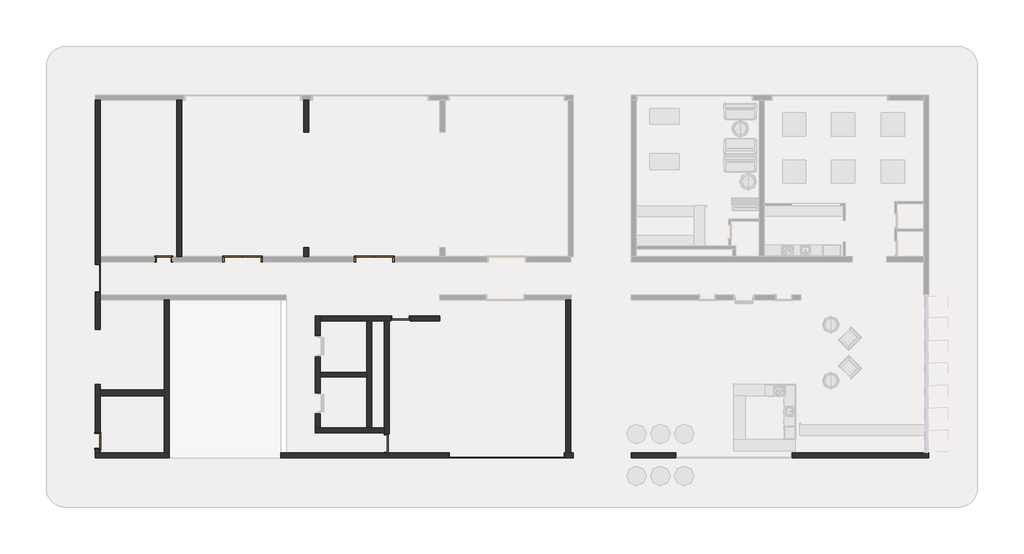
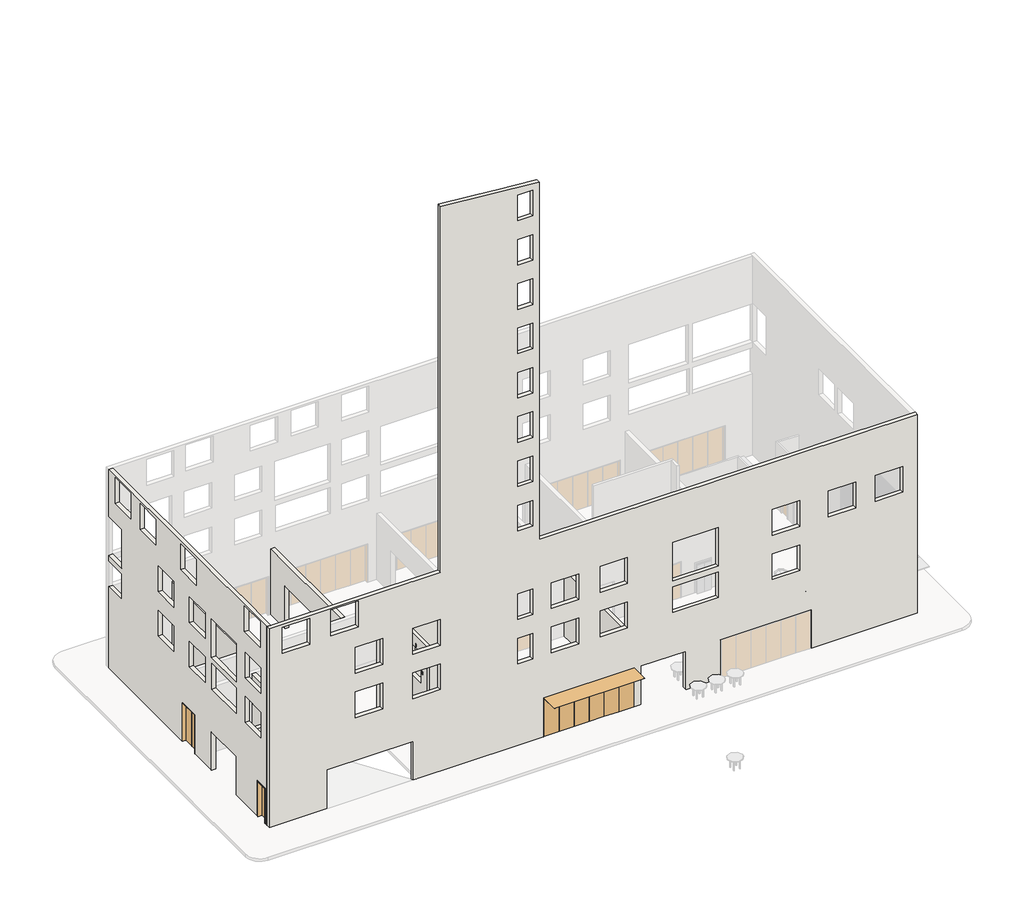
# One storey, part 1 of 8: 13 walls, 8 doors.
"""IFC4 building model written with IfcOpenShell, lengths in millimetres."""

from ifc_helpers import new_model, si_unit, frame, origin, place, context, project, spatial, polyline, outline, extrude, faceted_brep, transform, mapped, element, save
from components import bi_fold_dor_6_panel_6000_f2409742, swing_double_metal_frame_double_2040_x_970x2_2b0cb67a, swing_double_timber_frame_door_2040x720x2_a5019e4b, swing_metal_frame_single_dor_f6efc24d, swing_metal_frame_single_dor1_247f4e75

model = new_model("IFC4")

# Units and contexts
model_context = context("Model", 3, world=origin())
ifc_project = project(units=[si_unit("LENGTHUNIT", "METRE", prefix="MILLI")], contexts=[model_context])

# Site, building, storey
site = spatial("IfcSite", under=ifc_project)
building = spatial("IfcBuilding", under=site)
storey = spatial("IfcBuildingStorey", under=building, Name="0階", Elevation=25100.0)

# Doors
placement = place(None, origin())
bi_fold_dor_6_panel_6000_shape = bi_fold_dor_6_panel_6000_f2409742(model_context)
element("IfcDoor", 1, ObjectType="Bi Fold_DOR : 6 Panel - 6000", at=placement, inside=storey, context=model_context, shape_type="MappedRepresentation", body=[
    mapped(bi_fold_dor_6_panel_6000_shape, transform((23523.2434971, 174.0898177, 25100.0), x_axis=(-1.0, 0.0, 0.0), y_axis=(0.0, -1.0, 0.0), z_axis=(0.0, 0.0, 1.0))),
])
swing_double_metal_frame_double_2040_x_970x2_shape = swing_double_metal_frame_double_2040_x_970x2_2b0cb67a(model_context)
element("IfcDoor", 2, ObjectType="Swing_Double : Metal Frame Double - 2040 x 970x2", at=placement, inside=storey, context=model_context, shape_type="MappedRepresentation", body=[
    mapped(swing_double_metal_frame_double_2040_x_970x2_shape, transform((10164.9275387, 10265.005792, 25100.0), x_axis=(1.0, 0.0, 0.0), y_axis=(0.0, 1.0, 0.0), z_axis=(0.0, 0.0, 1.0))),
])
element("IfcDoor", 3, ObjectType="Swing_Double : Metal Frame Double - 2040 x 970x2", at=placement, inside=storey, context=model_context, shape_type="MappedRepresentation", body=[
    mapped(swing_double_metal_frame_double_2040_x_970x2_shape, transform((16934.8983724, 10265.005792, 25100.0), x_axis=(1.0, 0.0, 0.0), y_axis=(0.0, 1.0, 0.0), z_axis=(0.0, 0.0, 1.0))),
])
swing_double_timber_frame_door_2040x720x2_shape = swing_double_timber_frame_door_2040x720x2_a5019e4b(model_context)
element("IfcDoor", 4, ObjectType="Swing_Double : Timber Frame Door 2040x720x2", at=placement, inside=storey, context=model_context, shape_type="MappedRepresentation", body=[
    mapped(swing_double_timber_frame_door_2040x720x2_shape, transform((2504.6057353, 9068.505792, 25100.0), x_axis=(0.0, -1.0, 0.0), y_axis=(1.0, 0.0, 0.0), z_axis=(0.0, 0.0, 1.0))),
])
swing_metal_frame_single_dor_shape = swing_metal_frame_single_dor_f6efc24d(model_context)
element("IfcDoor", 5, ObjectType="Swing_Metal Frame_Single_DOR : 2140h x 920 (2210x1010 BLK)", at=placement, inside=storey, context=model_context, shape_type="MappedRepresentation", body=[
    mapped(swing_metal_frame_single_dor_shape, transform((17369.6062665, 770.0, 25100.0), x_axis=(0.0, 1.0, 0.0), y_axis=(-1.0, 0.0, 0.0), z_axis=(0.0, 0.0, 1.0))),
])
element("IfcDoor", 6, ObjectType="Swing_Metal Frame_Single_DOR : 2140h x 920 (2210x1010 BLK)", at=placement, inside=storey, context=model_context, shape_type="MappedRepresentation", body=[
    mapped(swing_metal_frame_single_dor_shape, transform((18069.6062665, 7210.0, 25100.0), x_axis=(1.0, 0.0, 0.0), y_axis=(0.0, 1.0, 0.0), z_axis=(0.0, 0.0, 1.0))),
])
swing_metal_frame_single_dor1_shape = swing_metal_frame_single_dor1_247f4e75(model_context)
element("IfcDoor", 7, ObjectType="Swing_Metal Frame_Single_DOR1 : 2040h x 820 (2110x920 STUD)", at=placement, inside=storey, context=model_context, shape_type="MappedRepresentation", body=[
    mapped(swing_metal_frame_single_dor1_shape, transform((2504.6057353, 910.0, 25100.0), x_axis=(0.0, 1.0, 0.0), y_axis=(-1.0, 0.0, 0.0), z_axis=(0.0, 0.0, 1.0))),
])
element("IfcDoor", 8, ObjectType="Swing_Metal Frame_Single_DOR1 : 2040h x 820 (2110x920 STUD)", at=placement, inside=storey, context=model_context, shape_type="MappedRepresentation", body=[
    mapped(swing_metal_frame_single_dor1_shape, transform((5889.6645991, 10265.005792, 25100.0), x_axis=(-1.0, 0.0, 0.0), y_axis=(0.0, -1.0, 0.0), z_axis=(0.0, 0.0, 1.0))),
])

# Walls
element("IfcWall", 9, ObjectType="Brickwork_Double_270mm", at=placement, inside=storey, context=model_context, shape_type="Brep", body=[
    faceted_brep([(2369.6057353, 309.0898177, 39000.0), (2639.6057353, 309.0898177, 39000.0), (13694.6062665, 309.0898177, 39000.0), (13694.6062665, 309.0898177, 60900.0), (13694.6062665, 309.0898177, 64570.8635295), (13844.6062665, 309.0898177, 64557.74023), (17344.6062665, 309.0898177, 64251.5299076), (17494.6062665, 309.0898177, 64238.4066081), (20219.6062665, 309.0898177, 64000.0), (20219.6062665, 309.0898177, 39000.0), (20364.6062665, 309.0898177, 39000.0), (38377.4654784, 309.0898177, 39000.0), (38647.4654784, 309.0898177, 39000.0), (41712.4654784, 309.0898177, 39000.0), (41982.4654784, 309.0898177, 39000.0), (44965.0, 309.0898177, 39000.0), (45235.0, 309.0898177, 39000.0), (45235.0, 309.0898177, 32600.0), (45235.0, 309.0898177, 25100.0), (38212.4654784, 309.0898177, 25100.0), (38212.4654784, 309.0898177, 27800.0), (32212.4654784, 309.0898177, 27800.0), (32212.4654784, 309.0898177, 25100.0), (29922.1585166, 309.0898177, 25100.0), (29922.1585166, 309.0898177, 27800.0), (26951.8807277, 309.0898177, 27800.0), (26951.8807277, 309.0898177, 25100.0), (26826.8807277, 309.0898177, 25100.0), (26556.8807277, 309.0898177, 25100.0), (26523.2434971, 309.0898177, 25100.0), (26523.2434971, 309.0898177, 27800.0), (20523.2434971, 309.0898177, 27800.0), (20523.2434971, 309.0898177, 25100.0), (17494.6062665, 309.0898177, 25100.0), (17494.6062665, 309.0898177, 27310.0), (17244.6062665, 309.0898177, 27310.0), (17244.6062665, 309.0898177, 25100.0), (12182.1904782, 309.0898177, 25100.0), (12182.1904782, 309.0898177, 24900.0), (11912.1904782, 309.0898177, 24900.0), (11912.1904782, 309.0898177, 27800.0), (6182.1904782, 309.0898177, 27800.0), (6182.1904782, 309.0898177, 25100.0), (5912.1904782, 309.0898177, 25100.0), (2639.6057353, 309.0898177, 25100.0), (2369.6057353, 309.0898177, 25100.0), (29056.5410012, 309.0898177, 35700.0), (29056.5410012, 309.0898177, 33000.0), (32056.5410012, 309.0898177, 33000.0), (32056.5410012, 309.0898177, 35700.0), (22829.6062665, 309.0898177, 33900.0), (22829.6062665, 309.0898177, 35700.0), (21029.6062665, 309.0898177, 35700.0), (21029.6062665, 309.0898177, 33900.0), (24247.200582, 309.0898177, 35700.0), (24247.200582, 309.0898177, 33900.0), (26047.200582, 309.0898177, 33900.0), (26047.200582, 309.0898177, 35700.0), (35647.200582, 309.0898177, 35700.0), (35647.200582, 309.0898177, 33900.0), (37447.200582, 309.0898177, 33900.0), (37447.200582, 309.0898177, 35700.0), (39355.4654784, 309.0898177, 35700.0), (39355.4654784, 309.0898177, 33900.0), (41155.4654784, 309.0898177, 33900.0), (41155.4654784, 309.0898177, 35700.0), (42455.4654784, 309.0898177, 35700.0), (42455.4654784, 309.0898177, 33900.0), (44255.4654784, 309.0898177, 33900.0), (44255.4654784, 309.0898177, 35700.0), (11869.6062665, 309.0898177, 35700.0), (11869.6062665, 309.0898177, 33900.0), (13669.6062665, 309.0898177, 33900.0), (13669.6062665, 309.0898177, 35700.0), (19794.6062665, 309.0898177, 33900.0), (19794.6062665, 309.0898177, 35700.0), (18794.6062665, 309.0898177, 35700.0), (18794.6062665, 309.0898177, 33900.0), (19794.6062665, 309.0898177, 40100.0), (19794.6062665, 309.0898177, 41900.0), (18794.6062665, 309.0898177, 41900.0), (18794.6062665, 309.0898177, 40100.0), (19794.6062665, 309.0898177, 43200.0), (19794.6062665, 309.0898177, 45000.0), (18794.6062665, 309.0898177, 45000.0), (18794.6062665, 309.0898177, 43200.0), (19794.6062665, 309.0898177, 46300.0), (19794.6062665, 309.0898177, 48100.0), (18794.6062665, 309.0898177, 48100.0), (18794.6062665, 309.0898177, 46300.0), (19794.6062665, 309.0898177, 49400.0), (19794.6062665, 309.0898177, 51200.0), (18794.6062665, 309.0898177, 51200.0), (18794.6062665, 309.0898177, 49400.0), (19794.6062665, 309.0898177, 52500.0), (19794.6062665, 309.0898177, 54300.0), (18794.6062665, 309.0898177, 54300.0), (18794.6062665, 309.0898177, 52500.0), (19794.6062665, 309.0898177, 55600.0), (19794.6062665, 309.0898177, 57400.0), (18794.6062665, 309.0898177, 57400.0), (18794.6062665, 309.0898177, 55600.0), (9863.4954006, 309.0898177, 33900.0), (9863.4954006, 309.0898177, 35700.0), (8063.4954006, 309.0898177, 35700.0), (8063.4954006, 309.0898177, 33900.0), (5044.6057353, 309.0898177, 37000.0), (5044.6057353, 309.0898177, 38800.0), (3244.6057353, 309.0898177, 38800.0), (3244.6057353, 309.0898177, 37000.0), (19794.6062665, 309.0898177, 61800.0), (19794.6062665, 309.0898177, 63600.0), (18794.6062665, 309.0898177, 63600.0), (18794.6062665, 309.0898177, 61800.0), (17494.6062665, 309.0898177, 33000.0), (17494.6062665, 309.0898177, 35210.0), (17244.6062665, 309.0898177, 35210.0), (17244.6062665, 309.0898177, 33000.0), (17494.6062665, 309.0898177, 39200.0), (17494.6062665, 309.0898177, 41410.0), (17244.6062665, 309.0898177, 41410.0), (17244.6062665, 309.0898177, 39200.0), (17494.6062665, 309.0898177, 51600.0), (17494.6062665, 309.0898177, 53810.0), (17244.6062665, 309.0898177, 53810.0), (17244.6062665, 309.0898177, 51600.0), (17494.6062665, 309.0898177, 54700.0), (17494.6062665, 309.0898177, 56910.0), (17244.6062665, 309.0898177, 56910.0), (17244.6062665, 309.0898177, 54700.0), (17494.6062665, 309.0898177, 48500.0), (17494.6062665, 309.0898177, 50710.0), (17244.6062665, 309.0898177, 50710.0), (17244.6062665, 309.0898177, 48500.0), (17494.6062665, 309.0898177, 45400.0), (17494.6062665, 309.0898177, 47610.0), (17244.6062665, 309.0898177, 47610.0), (17244.6062665, 309.0898177, 45400.0), (17494.6062665, 309.0898177, 42300.0), (17494.6062665, 309.0898177, 44510.0), (17244.6062665, 309.0898177, 44510.0), (17244.6062665, 309.0898177, 42300.0), (17494.6062665, 309.0898177, 60900.0), (17494.6062665, 309.0898177, 63110.0), (17344.6062665, 309.0898177, 63110.0), (17344.6062665, 309.0898177, 60900.0), (9863.4954006, 309.0898177, 30800.0), (9863.4954006, 309.0898177, 32600.0), (8063.4954006, 309.0898177, 32600.0), (8063.4954006, 309.0898177, 30800.0), (13670.0, 309.0898177, 30800.0), (13670.0, 309.0898177, 32600.0), (11870.0, 309.0898177, 32600.0), (11870.0, 309.0898177, 30800.0), (22829.6062665, 309.0898177, 30800.0), (22829.6062665, 309.0898177, 32600.0), (21029.6062665, 309.0898177, 32600.0), (21029.6062665, 309.0898177, 30800.0), (26047.200582, 309.0898177, 30800.0), (26047.200582, 309.0898177, 32600.0), (24247.200582, 309.0898177, 32600.0), (24247.200582, 309.0898177, 30800.0), (37447.200582, 309.0898177, 30800.0), (37447.200582, 309.0898177, 32600.0), (35647.200582, 309.0898177, 32600.0), (35647.200582, 309.0898177, 30800.0), (19794.6062665, 309.0898177, 58700.0), (19794.6062665, 309.0898177, 60500.0), (18794.6062665, 309.0898177, 60500.0), (18794.6062665, 309.0898177, 58700.0), (19794.6062665, 309.0898177, 30800.0), (19794.6062665, 309.0898177, 32600.0), (18794.6062665, 309.0898177, 32600.0), (18794.6062665, 309.0898177, 30800.0), (32056.5410012, 309.0898177, 30800.0), (32056.5410012, 309.0898177, 32600.0), (29056.5410012, 309.0898177, 32600.0), (29056.5410012, 309.0898177, 30800.0), (8244.6057353, 309.0898177, 37100.0), (8244.6057353, 309.0898177, 38900.0), (6444.6057353, 309.0898177, 38900.0), (6444.6057353, 309.0898177, 37100.0), (13694.6062665, 39.0898177, 39000.0), (2369.6057353, 39.0898177, 39000.0), (2369.6057353, 39.0898177, 25100.0), (6182.1904782, 39.0898177, 25100.0), (6182.1904782, 39.0898177, 27800.0), (11912.1904782, 39.0898177, 27800.0), (11912.1904782, 39.0898177, 25100.0), (11912.1904782, 39.0898177, 24900.0), (12182.1904782, 39.0898177, 24900.0), (12182.1904782, 39.0898177, 25100.0), (20523.2434971, 39.0898177, 25100.0), (20523.2434971, 39.0898177, 27800.0), (26523.2434971, 39.0898177, 27800.0), (26523.2434971, 39.0898177, 25100.0), (26951.8807277, 39.0898177, 25100.0), (26951.8807277, 39.0898177, 27800.0), (29922.1585166, 39.0898177, 27800.0), (29922.1585166, 39.0898177, 25100.0), (32212.4654784, 39.0898177, 25100.0), (32212.4654784, 39.0898177, 27800.0), (38212.4654784, 39.0898177, 27800.0), (38212.4654784, 39.0898177, 25100.0), (45235.0, 39.0898177, 25100.0), (45235.0, 39.0898177, 39000.0), (20219.6062665, 39.0898177, 39000.0), (20219.6062665, 39.0898177, 64000.0), (13694.6062665, 39.0898177, 64570.8635295), (29056.5410012, 39.0898177, 33000.0), (29056.5410012, 39.0898177, 35700.0), (32056.5410012, 39.0898177, 35700.0), (32056.5410012, 39.0898177, 33000.0), (22829.6062665, 39.0898177, 35700.0), (22829.6062665, 39.0898177, 33900.0), (21029.6062665, 39.0898177, 33900.0), (21029.6062665, 39.0898177, 35700.0), (24247.200582, 39.0898177, 33900.0), (24247.200582, 39.0898177, 35700.0), (26047.200582, 39.0898177, 35700.0), (26047.200582, 39.0898177, 33900.0), (35647.200582, 39.0898177, 33900.0), (35647.200582, 39.0898177, 35700.0), (37447.200582, 39.0898177, 35700.0), (37447.200582, 39.0898177, 33900.0), (39355.4654784, 39.0898177, 33900.0), (39355.4654784, 39.0898177, 35700.0), (41155.4654784, 39.0898177, 35700.0), (41155.4654784, 39.0898177, 33900.0), (42455.4654784, 39.0898177, 33900.0), (42455.4654784, 39.0898177, 35700.0), (44255.4654784, 39.0898177, 35700.0), (44255.4654784, 39.0898177, 33900.0), (11869.6062665, 39.0898177, 33900.0), (11869.6062665, 39.0898177, 35700.0), (13669.6062665, 39.0898177, 35700.0), (13669.6062665, 39.0898177, 33900.0), (19794.6062665, 39.0898177, 35700.0), (19794.6062665, 39.0898177, 33900.0), (18794.6062665, 39.0898177, 33900.0), (18794.6062665, 39.0898177, 35700.0), (19794.6062665, 39.0898177, 41900.0), (19794.6062665, 39.0898177, 40100.0), (18794.6062665, 39.0898177, 40100.0), (18794.6062665, 39.0898177, 41900.0), (19794.6062665, 39.0898177, 45000.0), (19794.6062665, 39.0898177, 43200.0), (18794.6062665, 39.0898177, 43200.0), (18794.6062665, 39.0898177, 45000.0), (19794.6062665, 39.0898177, 48100.0), (19794.6062665, 39.0898177, 46300.0), (18794.6062665, 39.0898177, 46300.0), (18794.6062665, 39.0898177, 48100.0), (19794.6062665, 39.0898177, 51200.0), (19794.6062665, 39.0898177, 49400.0), (18794.6062665, 39.0898177, 49400.0), (18794.6062665, 39.0898177, 51200.0), (19794.6062665, 39.0898177, 54300.0), (19794.6062665, 39.0898177, 52500.0), (18794.6062665, 39.0898177, 52500.0), (18794.6062665, 39.0898177, 54300.0), (19794.6062665, 39.0898177, 57400.0), (19794.6062665, 39.0898177, 55600.0), (18794.6062665, 39.0898177, 55600.0), (18794.6062665, 39.0898177, 57400.0), (9863.4954006, 39.0898177, 35700.0), (9863.4954006, 39.0898177, 33900.0), (8063.4954006, 39.0898177, 33900.0), (8063.4954006, 39.0898177, 35700.0), (5044.6057353, 39.0898177, 38800.0), (5044.6057353, 39.0898177, 37000.0), (3244.6057353, 39.0898177, 37000.0), (3244.6057353, 39.0898177, 38800.0), (19794.6062665, 39.0898177, 63600.0), (19794.6062665, 39.0898177, 61800.0), (18794.6062665, 39.0898177, 61800.0), (18794.6062665, 39.0898177, 63600.0), (9863.4954006, 39.0898177, 32600.0), (9863.4954006, 39.0898177, 30800.0), (8063.4954006, 39.0898177, 30800.0), (8063.4954006, 39.0898177, 32600.0), (13670.0, 39.0898177, 32600.0), (13670.0, 39.0898177, 30800.0), (11870.0, 39.0898177, 30800.0), (11870.0, 39.0898177, 32600.0), (22829.6062665, 39.0898177, 32600.0), (22829.6062665, 39.0898177, 30800.0), (21029.6062665, 39.0898177, 30800.0), (21029.6062665, 39.0898177, 32600.0), (26047.200582, 39.0898177, 32600.0), (26047.200582, 39.0898177, 30800.0), (24247.200582, 39.0898177, 30800.0), (24247.200582, 39.0898177, 32600.0), (37447.200582, 39.0898177, 32600.0), (37447.200582, 39.0898177, 30800.0), (35647.200582, 39.0898177, 30800.0), (35647.200582, 39.0898177, 32600.0), (19794.6062665, 39.0898177, 60500.0), (19794.6062665, 39.0898177, 58700.0), (18794.6062665, 39.0898177, 58700.0), (18794.6062665, 39.0898177, 60500.0), (19794.6062665, 39.0898177, 32600.0), (19794.6062665, 39.0898177, 30800.0), (18794.6062665, 39.0898177, 30800.0), (18794.6062665, 39.0898177, 32600.0), (32056.5410012, 39.0898177, 32600.0), (32056.5410012, 39.0898177, 30800.0), (29056.5410012, 39.0898177, 30800.0), (29056.5410012, 39.0898177, 32600.0), (8244.6057353, 39.0898177, 38900.0), (8244.6057353, 39.0898177, 37100.0), (6444.6057353, 39.0898177, 37100.0), (6444.6057353, 39.0898177, 38900.0), (17494.6062665, 260.0, 33000.0), (17494.6062665, 260.0, 35210.0), (17244.6062665, 260.0, 35210.0), (17244.6062665, 260.0, 33000.0), (17494.6062665, 260.0, 39200.0), (17494.6062665, 260.0, 41410.0), (17244.6062665, 260.0, 41410.0), (17244.6062665, 260.0, 39200.0), (17494.6062665, 260.0, 54700.0), (17494.6062665, 260.0, 56910.0), (17244.6062665, 260.0, 56910.0), (17244.6062665, 260.0, 54700.0), (17494.6062665, 260.0, 42300.0), (17494.6062665, 260.0, 44510.0), (17244.6062665, 260.0, 44510.0), (17244.6062665, 260.0, 42300.0), (17494.6062665, 260.0, 45400.0), (17494.6062665, 260.0, 47610.0), (17244.6062665, 260.0, 47610.0), (17244.6062665, 260.0, 45400.0), (17494.6062665, 260.0, 48500.0), (17494.6062665, 260.0, 50710.0), (17244.6062665, 260.0, 50710.0), (17244.6062665, 260.0, 48500.0), (17494.6062665, 260.0, 51600.0), (17494.6062665, 260.0, 53810.0), (17244.6062665, 260.0, 53810.0), (17244.6062665, 260.0, 51600.0), (17494.6062665, 260.0, 25100.0), (17494.6062665, 260.0, 27310.0), (17244.6062665, 260.0, 27310.0), (17244.6062665, 260.0, 25100.0), (17494.6062665, 260.0, 60900.0), (17494.6062665, 260.0, 63110.0), (17344.6062665, 260.0, 63110.0), (17344.6062665, 260.0, 60900.0)], [[[0, 1, 2, 3, 4, 5, 6, 7, 8, 9, 10, 11, 12, 13, 14, 15, 16, 17, 18, 19, 20, 21, 22, 23, 24, 25, 26, 27, 28, 29, 30, 31, 32, 33, 34, 35, 36, 37, 38, 39, 40, 41, 42, 43, 44, 45], [46, 47, 48, 49], [50, 51, 52, 53], [54, 55, 56, 57], [58, 59, 60, 61], [62, 63, 64, 65], [66, 67, 68, 69], [70, 71, 72, 73], [74, 75, 76, 77], [78, 79, 80, 81], [82, 83, 84, 85], [86, 87, 88, 89], [90, 91, 92, 93], [94, 95, 96, 97], [98, 99, 100, 101], [102, 103, 104, 105], [106, 107, 108, 109], [110, 111, 112, 113], [114, 115, 116, 117], [118, 119, 120, 121], [122, 123, 124, 125], [126, 127, 128, 129], [130, 131, 132, 133], [134, 135, 136, 137], [138, 139, 140, 141], [142, 143, 144, 145], [146, 147, 148, 149], [150, 151, 152, 153], [154, 155, 156, 157], [158, 159, 160, 161], [162, 163, 164, 165], [166, 167, 168, 169], [170, 171, 172, 173], [174, 175, 176, 177], [178, 179, 180, 181]], [[182, 183, 184, 185, 186, 187, 188, 189, 190, 191, 192, 193, 194, 195, 196, 197, 198, 199, 200, 201, 202, 203, 204, 205, 206, 207, 208], [209, 210, 211, 212], [213, 214, 215, 216], [217, 218, 219, 220], [221, 222, 223, 224], [225, 226, 227, 228], [229, 230, 231, 232], [233, 234, 235, 236], [237, 238, 239, 240], [241, 242, 243, 244], [245, 246, 247, 248], [249, 250, 251, 252], [253, 254, 255, 256], [257, 258, 259, 260], [261, 262, 263, 264], [265, 266, 267, 268], [269, 270, 271, 272], [273, 274, 275, 276], [277, 278, 279, 280], [281, 282, 283, 284], [285, 286, 287, 288], [289, 290, 291, 292], [293, 294, 295, 296], [297, 298, 299, 300], [301, 302, 303, 304], [305, 306, 307, 308], [309, 310, 311, 312]], [[189, 39, 38, 190]], [[16, 205, 204, 18, 17]], [[183, 0, 45, 184]], [[210, 209, 47, 46]], [[211, 210, 46, 49]], [[212, 211, 49, 48]], [[209, 212, 48, 47]], [[51, 50, 214, 213]], [[52, 51, 213, 216]], [[53, 52, 216, 215]], [[50, 53, 215, 214]], [[218, 217, 55, 54]], [[219, 218, 54, 57]], [[220, 219, 57, 56]], [[217, 220, 56, 55]], [[222, 221, 59, 58]], [[223, 222, 58, 61]], [[224, 223, 61, 60]], [[221, 224, 60, 59]], [[226, 225, 63, 62]], [[227, 226, 62, 65]], [[228, 227, 65, 64]], [[225, 228, 64, 63]], [[230, 229, 67, 66]], [[231, 230, 66, 69]], [[232, 231, 69, 68]], [[229, 232, 68, 67]], [[234, 233, 71, 70]], [[235, 234, 70, 73]], [[236, 235, 73, 72]], [[233, 236, 72, 71]], [[313, 314, 115, 114]], [[315, 316, 117, 116]], [[314, 315, 116, 115]], [[314, 313, 316, 315]], [[316, 313, 114, 117]], [[317, 318, 119, 118]], [[319, 320, 121, 120]], [[318, 317, 320, 319]], [[320, 317, 118, 121]], [[0, 183, 182, 2, 1]], [[2, 182, 208, 4, 3]], [[205, 16, 15, 14, 13, 12, 11, 10, 9, 206]], [[206, 9, 8, 207]], [[8, 7, 6, 5, 4, 208, 207]], [[318, 319, 120, 119]], [[321, 322, 127, 126]], [[323, 324, 129, 128]], [[322, 323, 128, 127]], [[322, 321, 324, 323]], [[324, 321, 126, 129]], [[325, 326, 139, 138]], [[327, 328, 141, 140]], [[326, 327, 140, 139]], [[326, 325, 328, 327]], [[328, 325, 138, 141]], [[329, 330, 135, 134]], [[331, 332, 137, 136]], [[330, 331, 136, 135]], [[330, 329, 332, 331]], [[332, 329, 134, 137]], [[333, 334, 131, 130]], [[335, 336, 133, 132]], [[334, 335, 132, 131]], [[334, 333, 336, 335]], [[336, 333, 130, 133]], [[337, 338, 123, 122]], [[339, 340, 125, 124]], [[338, 339, 124, 123]], [[338, 337, 340, 339]], [[340, 337, 122, 125]], [[75, 74, 238, 237]], [[76, 75, 237, 240]], [[77, 76, 240, 239]], [[74, 77, 239, 238]], [[79, 78, 242, 241]], [[80, 79, 241, 244]], [[81, 80, 244, 243]], [[78, 81, 243, 242]], [[83, 82, 246, 245]], [[84, 83, 245, 248]], [[85, 84, 248, 247]], [[82, 85, 247, 246]], [[87, 86, 250, 249]], [[88, 87, 249, 252]], [[89, 88, 252, 251]], [[86, 89, 251, 250]], [[91, 90, 254, 253]], [[92, 91, 253, 256]], [[93, 92, 256, 255]], [[90, 93, 255, 254]], [[95, 94, 258, 257]], [[96, 95, 257, 260]], [[97, 96, 260, 259]], [[94, 97, 259, 258]], [[99, 98, 262, 261]], [[100, 99, 261, 264]], [[101, 100, 264, 263]], [[98, 101, 263, 262]], [[103, 102, 266, 265]], [[104, 103, 265, 268]], [[105, 104, 268, 267]], [[102, 105, 267, 266]], [[107, 106, 270, 269]], [[108, 107, 269, 272]], [[109, 108, 272, 271]], [[106, 109, 271, 270]], [[111, 110, 274, 273]], [[112, 111, 273, 276]], [[113, 112, 276, 275]], [[110, 113, 275, 274]], [[41, 186, 185, 42]], [[186, 41, 40, 187]], [[187, 40, 39, 189, 188]], [[25, 197, 196, 26]], [[197, 25, 24, 198]], [[198, 24, 23, 199]], [[341, 342, 34, 33]], [[343, 344, 36, 35]], [[342, 343, 35, 34]], [[342, 341, 344, 343]], [[21, 201, 200, 22]], [[201, 21, 20, 202]], [[202, 20, 19, 203]], [[32, 31, 193, 192]], [[31, 30, 194, 193]], [[30, 29, 195, 194]], [[19, 18, 204, 203]], [[23, 22, 200, 199]], [[45, 44, 43, 42, 185, 184]], [[191, 37, 36, 344, 341, 33, 32, 192]], [[29, 28, 27, 26, 196, 195]], [[37, 191, 190, 38]], [[345, 346, 143, 142]], [[347, 348, 145, 144]], [[346, 347, 144, 143]], [[346, 345, 348, 347]], [[348, 345, 142, 145]], [[147, 146, 278, 277]], [[148, 147, 277, 280]], [[149, 148, 280, 279]], [[146, 149, 279, 278]], [[151, 150, 282, 281]], [[152, 151, 281, 284]], [[153, 152, 284, 283]], [[150, 153, 283, 282]], [[155, 154, 286, 285]], [[156, 155, 285, 288]], [[157, 156, 288, 287]], [[154, 157, 287, 286]], [[159, 158, 290, 289]], [[160, 159, 289, 292]], [[161, 160, 292, 291]], [[158, 161, 291, 290]], [[163, 162, 294, 293]], [[164, 163, 293, 296]], [[165, 164, 296, 295]], [[162, 165, 295, 294]], [[167, 166, 298, 297]], [[168, 167, 297, 300]], [[169, 168, 300, 299]], [[166, 169, 299, 298]], [[171, 170, 302, 301]], [[172, 171, 301, 304]], [[173, 172, 304, 303]], [[170, 173, 303, 302]], [[175, 174, 306, 305]], [[176, 175, 305, 308]], [[177, 176, 308, 307]], [[174, 177, 307, 306]], [[179, 178, 310, 309]], [[180, 179, 309, 312]], [[181, 180, 312, 311]], [[178, 181, 311, 310]]]),
])
element("IfcWall", 10, ObjectType="Brickwork_Double_270mm", at=placement, inside=storey, context=model_context, shape_type="Brep", body=[
    faceted_brep([(2639.6057353, 18440.0, 25100.0), (2639.6057353, 18440.0, 30800.0), (2639.6057353, 16940.0, 30800.0), (2639.6057353, 16940.0, 32600.0), (2639.6057353, 18440.0, 32600.0), (2639.6057353, 18440.0, 33000.0), (2639.6057353, 16929.8875971, 33000.0), (2639.6057353, 16929.8875971, 35700.0), (2639.6057353, 18440.0, 35700.0), (2639.6057353, 18440.0, 39000.0), (2639.6057353, 6697.0008144, 39000.0), (2639.6057353, 6497.0008144, 39000.0), (2639.6057353, 3873.0, 39000.0), (2639.6057353, 3673.0, 39000.0), (2639.6057353, 309.0898177, 39000.0), (2639.6057353, 309.0898177, 25100.0), (2639.6057353, 470.0, 25100.0), (2639.6057353, 470.0, 27590.0), (2639.6057353, 1350.0, 27590.0), (2639.6057353, 1350.0, 25100.0), (2639.6057353, 3816.2680774, 25100.0), (2639.6057353, 3816.2680774, 27800.0), (2639.6057353, 6650.3166994, 27800.0), (2639.6057353, 6650.3166994, 25100.0), (2639.6057353, 8160.005792, 25100.0), (2639.6057353, 8430.005792, 25100.0), (2639.6057353, 8539.005792, 25100.0), (2639.6057353, 8539.005792, 27841.0), (2639.6057353, 10021.005792, 27841.0), (2639.6057353, 10021.005792, 25100.0), (2639.6057353, 10130.005792, 25100.0), (2639.6057353, 10400.005792, 25100.0), (2639.6057353, 3816.2680774, 35700.0), (2639.6057353, 6650.3166994, 35700.0), (2639.6057353, 6650.3166994, 33000.0), (2639.6057353, 3816.2680774, 33000.0), (2639.6057353, 7385.3166994, 33900.0), (2639.6057353, 7385.3166994, 35700.0), (2639.6057353, 9185.3166994, 35700.0), (2639.6057353, 9185.3166994, 33900.0), (2639.6057353, 990.6340387, 33900.0), (2639.6057353, 990.6340387, 35700.0), (2639.6057353, 2790.6340387, 35700.0), (2639.6057353, 2790.6340387, 33900.0), (2639.6057353, 10950.7680774, 33900.0), (2639.6057353, 10950.7680774, 35700.0), (2639.6057353, 12750.7680774, 35700.0), (2639.6057353, 12750.7680774, 33900.0), (2639.6057353, 13015.7680774, 37000.0), (2639.6057353, 13015.7680774, 38800.0), (2639.6057353, 14815.7680774, 38800.0), (2639.6057353, 14815.7680774, 37000.0), (2639.6057353, 8385.3166994, 37000.0), (2639.6057353, 8385.3166994, 38800.0), (2639.6057353, 10185.3166994, 38800.0), (2639.6057353, 10185.3166994, 37000.0), (2639.6057353, 10950.7680774, 30800.0), (2639.6057353, 10950.7680774, 32600.0), (2639.6057353, 12750.7680774, 32600.0), (2639.6057353, 12750.7680774, 30800.0), (2639.6057353, 7385.3166994, 30800.0), (2639.6057353, 7385.3166994, 32600.0), (2639.6057353, 9185.3166994, 32600.0), (2639.6057353, 9185.3166994, 30800.0), (2639.6057353, 990.6340387, 30800.0), (2639.6057353, 990.6340387, 32600.0), (2639.6057353, 2790.6340387, 32600.0), (2639.6057353, 2790.6340387, 30800.0), (2639.6057353, 3816.2680774, 30800.0), (2639.6057353, 3816.2680774, 32600.0), (2639.6057353, 6616.2680774, 32600.0), (2639.6057353, 6616.2680774, 30800.0), (2639.6057353, 1073.5449088, 37100.0), (2639.6057353, 1073.5449088, 38900.0), (2639.6057353, 2873.5449088, 38900.0), (2639.6057353, 2873.5449088, 37100.0), (2639.6057353, 15875.0, 37100.0), (2639.6057353, 15875.0, 38900.0), (2639.6057353, 17675.0, 38900.0), (2639.6057353, 17675.0, 37100.0), (2369.6057353, 16940.0, 30800.0), (2369.6057353, 18440.0, 30800.0), (2369.6057353, 18440.0, 25100.0), (2369.6057353, 10021.005792, 25100.0), (2369.6057353, 10021.005792, 27841.0), (2369.6057353, 8539.005792, 27841.0), (2369.6057353, 8539.005792, 25100.0), (2369.6057353, 6650.3166994, 25100.0), (2369.6057353, 6650.3166994, 27800.0), (2369.6057353, 3816.2680774, 27800.0), (2369.6057353, 3816.2680774, 25100.0), (2369.6057353, 1350.0, 25100.0), (2369.6057353, 1350.0, 27590.0), (2369.6057353, 470.0, 27590.0), (2369.6057353, 470.0, 25100.0), (2369.6057353, 309.0898177, 25100.0), (2369.6057353, 309.0898177, 39000.0), (2369.6057353, 18440.0, 39000.0), (2369.6057353, 18440.0, 35700.0), (2369.6057353, 16929.8875971, 35700.0), (2369.6057353, 16929.8875971, 33000.0), (2369.6057353, 18440.0, 33000.0), (2369.6057353, 18440.0, 32600.0), (2369.6057353, 16940.0, 32600.0), (2369.6057353, 3816.2680774, 35700.0), (2369.6057353, 3816.2680774, 33000.0), (2369.6057353, 6650.3166994, 33000.0), (2369.6057353, 6650.3166994, 35700.0), (2369.6057353, 7385.3166994, 33900.0), (2369.6057353, 9185.3166994, 33900.0), (2369.6057353, 9185.3166994, 35700.0), (2369.6057353, 7385.3166994, 35700.0), (2369.6057353, 990.6340387, 33900.0), (2369.6057353, 2790.6340387, 33900.0), (2369.6057353, 2790.6340387, 35700.0), (2369.6057353, 990.6340387, 35700.0), (2369.6057353, 10950.7680774, 33900.0), (2369.6057353, 12750.7680774, 33900.0), (2369.6057353, 12750.7680774, 35700.0), (2369.6057353, 10950.7680774, 35700.0), (2369.6057353, 13015.7680774, 37000.0), (2369.6057353, 14815.7680774, 37000.0), (2369.6057353, 14815.7680774, 38800.0), (2369.6057353, 13015.7680774, 38800.0), (2369.6057353, 8385.3166994, 37000.0), (2369.6057353, 10185.3166994, 37000.0), (2369.6057353, 10185.3166994, 38800.0), (2369.6057353, 8385.3166994, 38800.0), (2369.6057353, 10950.7680774, 30800.0), (2369.6057353, 12750.7680774, 30800.0), (2369.6057353, 12750.7680774, 32600.0), (2369.6057353, 10950.7680774, 32600.0), (2369.6057353, 7385.3166994, 30800.0), (2369.6057353, 9185.3166994, 30800.0), (2369.6057353, 9185.3166994, 32600.0), (2369.6057353, 7385.3166994, 32600.0), (2369.6057353, 990.6340387, 30800.0), (2369.6057353, 2790.6340387, 30800.0), (2369.6057353, 2790.6340387, 32600.0), (2369.6057353, 990.6340387, 32600.0), (2369.6057353, 3816.2680774, 30800.0), (2369.6057353, 6616.2680774, 30800.0), (2369.6057353, 6616.2680774, 32600.0), (2369.6057353, 3816.2680774, 32600.0), (2369.6057353, 1073.5449088, 37100.0), (2369.6057353, 2873.5449088, 37100.0), (2369.6057353, 2873.5449088, 38900.0), (2369.6057353, 1073.5449088, 38900.0), (2369.6057353, 15875.0, 37100.0), (2369.6057353, 17675.0, 37100.0), (2369.6057353, 17675.0, 38900.0), (2369.6057353, 15875.0, 38900.0)], [[[0, 1, 2, 3, 4, 5, 6, 7, 8, 9, 10, 11, 12, 13, 14, 15, 16, 17, 18, 19, 20, 21, 22, 23, 24, 25, 26, 27, 28, 29, 30, 31], [32, 33, 34, 35], [36, 37, 38, 39], [40, 41, 42, 43], [44, 45, 46, 47], [48, 49, 50, 51], [52, 53, 54, 55], [56, 57, 58, 59], [60, 61, 62, 63], [64, 65, 66, 67], [68, 69, 70, 71], [72, 73, 74, 75], [76, 77, 78, 79]], [[80, 81, 82, 83, 84, 85, 86, 87, 88, 89, 90, 91, 92, 93, 94, 95, 96, 97, 98, 99, 100, 101, 102, 103], [104, 105, 106, 107], [108, 109, 110, 111], [112, 113, 114, 115], [116, 117, 118, 119], [120, 121, 122, 123], [124, 125, 126, 127], [128, 129, 130, 131], [132, 133, 134, 135], [136, 137, 138, 139], [140, 141, 142, 143], [144, 145, 146, 147], [148, 149, 150, 151]], [[82, 0, 31, 30, 29, 83]], [[15, 95, 94, 16]], [[20, 19, 91, 90]], [[26, 25, 24, 23, 87, 86]], [[14, 13, 12, 11, 10, 9, 97, 96]], [[15, 14, 96, 95]], [[97, 9, 8, 98]], [[102, 101, 5, 4]], [[82, 81, 1, 0]], [[105, 104, 32, 35]], [[106, 105, 35, 34]], [[107, 106, 34, 33]], [[104, 107, 33, 32]], [[100, 99, 7, 6]], [[101, 100, 6, 5]], [[99, 98, 8, 7]], [[37, 36, 108, 111]], [[38, 37, 111, 110]], [[39, 38, 110, 109]], [[36, 39, 109, 108]], [[41, 40, 112, 115]], [[42, 41, 115, 114]], [[43, 42, 114, 113]], [[40, 43, 113, 112]], [[45, 44, 116, 119]], [[46, 45, 119, 118]], [[47, 46, 118, 117]], [[44, 47, 117, 116]], [[49, 48, 120, 123]], [[50, 49, 123, 122]], [[51, 50, 122, 121]], [[48, 51, 121, 120]], [[53, 52, 124, 127]], [[54, 53, 127, 126]], [[55, 54, 126, 125]], [[52, 55, 125, 124]], [[84, 83, 29, 28]], [[85, 84, 28, 27]], [[86, 85, 27, 26]], [[18, 92, 91, 19]], [[92, 18, 17, 93]], [[93, 17, 16, 94]], [[90, 89, 21, 20]], [[88, 87, 23, 22]], [[89, 88, 22, 21]], [[57, 56, 128, 131]], [[58, 57, 131, 130]], [[59, 58, 130, 129]], [[56, 59, 129, 128]], [[61, 60, 132, 135]], [[62, 61, 135, 134]], [[63, 62, 134, 133]], [[60, 63, 133, 132]], [[65, 64, 136, 139]], [[66, 65, 139, 138]], [[67, 66, 138, 137]], [[64, 67, 137, 136]], [[69, 68, 140, 143]], [[70, 69, 143, 142]], [[71, 70, 142, 141]], [[68, 71, 141, 140]], [[3, 2, 80, 103]], [[4, 3, 103, 102]], [[2, 1, 81, 80]], [[73, 72, 144, 147]], [[74, 73, 147, 146]], [[75, 74, 146, 145]], [[72, 75, 145, 144]], [[77, 76, 148, 151]], [[78, 77, 151, 150]], [[79, 78, 150, 149]], [[76, 79, 149, 148]]]),
])
element("IfcWall", 11, ObjectType="Brickwork_Double_270mm", at=placement, inside=storey, context=model_context, shape_type="SweptSolid", body=[
    extrude(outline(polyline([(6824.6645991, 18440.0), (6824.6645991, 10400.005792), (6554.6645991, 10400.005792), (6554.6645991, 18440.0), (6824.6645991, 18440.0)])), frame((0.0, 0.0, 25100.0), z_axis=(0.0, 0.0, 1.0), x_axis=(1.0, 0.0, 0.0)), (0.0, 0.0, 1.0), 4600.0),
])
element("IfcWall", 12, ObjectType="Brickwork_Double_270mm", at=placement, inside=storey, context=model_context, shape_type="SweptSolid", body=[
    extrude(outline(polyline([(10400.005792, 29700.0), (18440.0, 29700.0), (18440.0, 25100.0), (16794.8875971, 25100.0), (16794.8875971, 28100.0), (10865.005792, 28100.0), (10865.005792, 25100.0), (10400.005792, 25100.0), (10400.005792, 29700.0)])), frame((13082.1904782, 0.0, 0.0), z_axis=(1.0, 0.0, 0.0), x_axis=(0.0, 1.0, 0.0)), (0.0, 0.0, 1.0), 270.0),
])
element("IfcWall", 13, ObjectType="Brickwork_Double_270mm", at=placement, inside=storey, context=model_context, shape_type="Brep", body=[
    faceted_brep([(6182.1904782, 309.0898177, 25100.0), (6182.1904782, 8160.005792, 25100.0), (6182.1904782, 8160.005792, 29700.0), (6182.1904782, 309.0898177, 29700.0), (6182.1904782, 309.0898177, 27800.0), (5912.1904782, 309.0898177, 25100.0), (5912.1904782, 309.0898177, 29700.0), (5912.1904782, 8160.005792, 29700.0), (5912.1904782, 8160.005792, 25100.0)], [[[0, 1, 2, 3, 4]], [[5, 6, 7, 8]], [[1, 0, 5, 8]], [[3, 2, 7, 6]], [[2, 1, 8, 7]], [[0, 4, 3, 6, 5]]]),
])
element("IfcWall", 14, ObjectType="Brickwork_Double_270mm", at=placement, inside=storey, context=model_context, shape_type="SweptSolid", body=[
    extrude(outline(polyline([(26556.8807277, 309.0898177), (26556.8807277, 8160.005792), (26826.8807277, 8160.005792), (26826.8807277, 309.0898177), (26556.8807277, 309.0898177)])), frame((0.0, 0.0, 25100.0), z_axis=(0.0, 0.0, 1.0), x_axis=(1.0, 0.0, 0.0)), (0.0, 0.0, 1.0), 4600.0),
])
element("IfcWall", 15, ObjectType="C1 - Concrete Type 3 - 250mm", at=placement, inside=storey, context=model_context, shape_type="Brep", body=[
    faceted_brep([(13694.6062665, 1325.0, 25100.0), (17244.6062665, 1325.0, 25100.0), (17244.6062665, 1325.0, 29900.0), (17494.6062665, 1325.0, 29900.0), (17494.6062665, 1325.0, 32800.0), (13694.6062665, 1325.0, 32800.0), (13694.6062665, 1575.0, 25100.0), (13694.6062665, 1575.0, 32800.0), (13944.6062665, 1575.0, 32800.0), (16344.6062665, 1575.0, 32800.0), (16594.6062665, 1575.0, 32800.0), (17244.6062665, 1575.0, 32800.0), (17494.6062665, 1575.0, 32800.0), (17494.6062665, 1575.0, 29900.0), (17244.6062665, 1575.0, 29900.0), (17244.6062665, 1575.0, 25100.0), (16594.6062665, 1575.0, 25100.0), (16344.6062665, 1575.0, 25100.0), (13944.6062665, 1575.0, 25100.0)], [[[0, 1, 2, 3, 4, 5]], [[6, 7, 8, 9, 10, 11, 12, 13, 14, 15, 16, 17, 18]], [[1, 0, 6, 18, 17, 16, 15]], [[0, 5, 7, 6]], [[5, 4, 12, 11, 10, 9, 8, 7]], [[13, 3, 2, 14]], [[2, 1, 15, 14]], [[4, 3, 13, 12]]]),
])
element("IfcWall", 16, ObjectType="C1 - Concrete Type 3 - 250mm", at=placement, inside=storey, context=model_context, shape_type="SweptSolid", body=[
    extrude(outline(polyline([(16344.6062665, 4195.0), (13944.6062665, 4195.0), (13944.6062665, 4445.0), (16344.6062665, 4445.0), (16344.6062665, 4195.0)])), frame((0.0, 0.0, 25100.0), z_axis=(0.0, 0.0, 1.0), x_axis=(1.0, 0.0, 0.0)), (0.0, 0.0, 1.0), 7700.0),
])
element("IfcWall", 17, ObjectType="C1 - Concrete Type 3 - 250mm", at=placement, inside=storey, context=model_context, shape_type="Brep", body=[
    faceted_brep([(16594.6062665, 1575.0, 25100.0), (16594.6062665, 7085.0, 25100.0), (16594.6062665, 7085.0, 32800.0), (16594.6062665, 1575.0, 32800.0), (16344.6062665, 1575.0, 25100.0), (16344.6062665, 1575.0, 32800.0), (16344.6062665, 4195.0, 32800.0), (16344.6062665, 4445.0, 32800.0), (16344.6062665, 7085.0, 32800.0), (16344.6062665, 7085.0, 25100.0), (16344.6062665, 4445.0, 25100.0), (16344.6062665, 4195.0, 25100.0)], [[[0, 1, 2, 3]], [[4, 5, 6, 7, 8, 9, 10, 11]], [[1, 0, 4, 11, 10, 9]], [[3, 2, 8, 7, 6, 5]], [[0, 3, 5, 4]], [[1, 9, 8, 2]]]),
])
element("IfcWall", 18, ObjectType="C1 - Concrete Type 3 - 250mm", at=placement, inside=storey, context=model_context, shape_type="Brep", body=[
    faceted_brep([(13944.6062665, 2295.0, 25100.0), (13944.6062665, 2295.0, 27200.0), (13944.6062665, 3395.0, 27200.0), (13944.6062665, 3395.0, 25100.0), (13944.6062665, 4195.0, 25100.0), (13944.6062665, 4445.0, 25100.0), (13944.6062665, 5245.0, 25100.0), (13944.6062665, 5245.0, 27200.0), (13944.6062665, 6345.0, 27200.0), (13944.6062665, 6345.0, 25100.0), (13944.6062665, 7085.0, 25100.0), (13944.6062665, 7335.0, 25100.0), (13944.6062665, 7335.0, 29700.0), (13944.6062665, 7335.0, 29900.0), (13944.6062665, 7335.0, 32800.0), (13944.6062665, 7085.0, 32800.0), (13944.6062665, 4445.0, 32800.0), (13944.6062665, 4195.0, 32800.0), (13944.6062665, 1575.0, 32800.0), (13944.6062665, 1575.0, 25100.0), (13944.6062665, 5245.0, 29900.0), (13944.6062665, 5245.0, 32000.0), (13944.6062665, 6345.0, 32000.0), (13944.6062665, 6345.0, 29900.0), (13944.6062665, 2295.0, 29900.0), (13944.6062665, 2295.0, 32000.0), (13944.6062665, 3395.0, 32000.0), (13944.6062665, 3395.0, 29900.0), (13694.6062665, 2295.0, 27200.0), (13694.6062665, 2295.0, 25100.0), (13694.6062665, 1575.0, 25100.0), (13694.6062665, 1575.0, 32800.0), (13694.6062665, 7335.0, 32800.0), (13694.6062665, 7335.0, 25100.0), (13694.6062665, 6345.0, 25100.0), (13694.6062665, 6345.0, 27200.0), (13694.6062665, 5245.0, 27200.0), (13694.6062665, 5245.0, 25100.0), (13694.6062665, 3395.0, 25100.0), (13694.6062665, 3395.0, 27200.0), (13694.6062665, 2165.0, 25800.0), (13694.6062665, 2165.0, 26000.0), (13694.6062665, 2065.0, 26000.0), (13694.6062665, 2065.0, 25800.0), (13694.6062665, 2895.0, 27300.0), (13694.6062665, 2895.0, 27500.0), (13694.6062665, 2795.0, 27500.0), (13694.6062665, 2795.0, 27300.0), (13694.6062665, 5115.0, 25800.0), (13694.6062665, 5115.0, 26000.0), (13694.6062665, 5015.0, 26000.0), (13694.6062665, 5015.0, 25800.0), (13694.6062665, 5845.0, 27300.0), (13694.6062665, 5845.0, 27500.0), (13694.6062665, 5745.0, 27500.0), (13694.6062665, 5745.0, 27300.0), (13694.6062665, 5245.0, 32000.0), (13694.6062665, 5245.0, 29900.0), (13694.6062665, 6345.0, 29900.0), (13694.6062665, 6345.0, 32000.0), (13694.6062665, 5115.0, 30600.0), (13694.6062665, 5115.0, 30800.0), (13694.6062665, 5015.0, 30800.0), (13694.6062665, 5015.0, 30600.0), (13694.6062665, 5845.0, 32100.0), (13694.6062665, 5845.0, 32300.0), (13694.6062665, 5745.0, 32300.0), (13694.6062665, 5745.0, 32100.0), (13694.6062665, 2295.0, 32000.0), (13694.6062665, 2295.0, 29900.0), (13694.6062665, 3395.0, 29900.0), (13694.6062665, 3395.0, 32000.0), (13694.6062665, 2165.0, 30600.0), (13694.6062665, 2165.0, 30800.0), (13694.6062665, 2065.0, 30800.0), (13694.6062665, 2065.0, 30600.0), (13694.6062665, 2895.0, 32100.0), (13694.6062665, 2895.0, 32300.0), (13694.6062665, 2795.0, 32300.0), (13694.6062665, 2795.0, 32100.0), (13714.6062665, 2165.0, 25800.0), (13714.6062665, 2065.0, 25800.0), (13714.6062665, 2065.0, 26000.0), (13714.6062665, 2165.0, 26000.0), (13714.6062665, 2895.0, 27300.0), (13714.6062665, 2795.0, 27300.0), (13714.6062665, 2795.0, 27500.0), (13714.6062665, 2895.0, 27500.0), (13714.6062665, 5115.0, 25800.0), (13714.6062665, 5015.0, 25800.0), (13714.6062665, 5015.0, 26000.0), (13714.6062665, 5115.0, 26000.0), (13714.6062665, 5845.0, 27300.0), (13714.6062665, 5745.0, 27300.0), (13714.6062665, 5745.0, 27500.0), (13714.6062665, 5845.0, 27500.0), (13714.6062665, 5115.0, 30600.0), (13714.6062665, 5015.0, 30600.0), (13714.6062665, 5015.0, 30800.0), (13714.6062665, 5115.0, 30800.0), (13714.6062665, 5845.0, 32100.0), (13714.6062665, 5745.0, 32100.0), (13714.6062665, 5745.0, 32300.0), (13714.6062665, 5845.0, 32300.0), (13714.6062665, 2165.0, 30600.0), (13714.6062665, 2065.0, 30600.0), (13714.6062665, 2065.0, 30800.0), (13714.6062665, 2165.0, 30800.0), (13714.6062665, 2895.0, 32100.0), (13714.6062665, 2795.0, 32100.0), (13714.6062665, 2795.0, 32300.0), (13714.6062665, 2895.0, 32300.0)], [[[0, 1, 2, 3, 4, 5, 6, 7, 8, 9, 10, 11, 12, 13, 14, 15, 16, 17, 18, 19], [20, 21, 22, 23], [24, 25, 26, 27]], [[28, 29, 30, 31, 32, 33, 34, 35, 36, 37, 38, 39], [40, 41, 42, 43], [44, 45, 46, 47], [48, 49, 50, 51], [52, 53, 54, 55], [56, 57, 58, 59], [60, 61, 62, 63], [64, 65, 66, 67], [68, 69, 70, 71], [72, 73, 74, 75], [76, 77, 78, 79]], [[0, 19, 30, 29]], [[3, 38, 37, 6, 5, 4]], [[11, 10, 9, 34, 33]], [[28, 1, 0, 29]], [[2, 39, 38, 3]], [[1, 28, 39, 2]], [[80, 81, 82, 83]], [[80, 83, 41, 40]], [[83, 82, 42, 41]], [[82, 81, 43, 42]], [[81, 80, 40, 43]], [[84, 85, 86, 87]], [[84, 87, 45, 44]], [[87, 86, 46, 45]], [[86, 85, 47, 46]], [[85, 84, 44, 47]], [[36, 7, 6, 37]], [[8, 35, 34, 9]], [[7, 36, 35, 8]], [[88, 89, 90, 91]], [[88, 91, 49, 48]], [[91, 90, 50, 49]], [[90, 89, 51, 50]], [[89, 88, 48, 51]], [[92, 93, 94, 95]], [[92, 95, 53, 52]], [[95, 94, 54, 53]], [[94, 93, 55, 54]], [[93, 92, 52, 55]], [[19, 18, 31, 30]], [[18, 17, 16, 15, 14, 32, 31]], [[11, 33, 32, 14, 13, 12]], [[20, 57, 56, 21]], [[57, 20, 23, 58]], [[58, 23, 22, 59]], [[21, 56, 59, 22]], [[96, 97, 98, 99]], [[96, 99, 61, 60]], [[99, 98, 62, 61]], [[98, 97, 63, 62]], [[97, 96, 60, 63]], [[100, 101, 102, 103]], [[100, 103, 65, 64]], [[103, 102, 66, 65]], [[102, 101, 67, 66]], [[101, 100, 64, 67]], [[24, 69, 68, 25]], [[69, 24, 27, 70]], [[70, 27, 26, 71]], [[25, 68, 71, 26]], [[104, 105, 106, 107]], [[104, 107, 73, 72]], [[107, 106, 74, 73]], [[106, 105, 75, 74]], [[105, 104, 72, 75]], [[108, 109, 110, 111]], [[108, 111, 77, 76]], [[111, 110, 78, 77]], [[110, 109, 79, 78]], [[109, 108, 76, 79]]]),
])
element("IfcWall", 19, ObjectType="C1 - Concrete Type 3 - 250mm", at=placement, inside=storey, context=model_context, shape_type="Brep", body=[
    faceted_brep([(17494.6062665, 7085.0, 29700.0), (17494.6062665, 309.0898177, 29700.0), (17494.6062665, 309.0898177, 27310.0), (17494.6062665, 1280.0, 27310.0), (17494.6062665, 1280.0, 25100.0), (17494.6062665, 7085.0, 25100.0), (17244.6062665, 309.0898177, 29700.0), (17244.6062665, 7085.0, 29700.0), (17244.6062665, 7085.0, 25100.0), (17244.6062665, 1575.0, 25100.0), (17244.6062665, 1325.0, 25100.0), (17244.6062665, 1280.0, 25100.0), (17244.6062665, 1280.0, 27310.0), (17244.6062665, 309.0898177, 27310.0)], [[[0, 1, 2, 3, 4, 5]], [[6, 7, 8, 9, 10, 11, 12, 13]], [[8, 5, 4, 11, 10, 9]], [[1, 0, 7, 6]], [[3, 12, 11, 4]], [[12, 3, 2, 13]], [[0, 5, 8, 7]], [[1, 6, 13, 2]]]),
])
element("IfcWall", 20, ObjectType="C1 - Concrete Type 3 - 250mm", at=placement, inside=storey, context=model_context, shape_type="Brep", body=[
    faceted_brep([(20094.6062665, 7085.0, 29700.0), (17494.6062665, 7085.0, 29700.0), (17244.6062665, 7085.0, 29700.0), (13944.6062665, 7085.0, 29700.0), (13944.6062665, 7085.0, 25100.0), (16344.6062665, 7085.0, 25100.0), (16594.6062665, 7085.0, 25100.0), (17244.6062665, 7085.0, 25100.0), (17494.6062665, 7085.0, 25100.0), (17559.6062665, 7085.0, 25100.0), (17559.6062665, 7085.0, 27310.0), (18579.6062665, 7085.0, 27310.0), (18579.6062665, 7085.0, 25100.0), (20094.6062665, 7085.0, 25100.0), (13944.6062665, 7335.0, 29700.0), (20094.6062665, 7335.0, 29700.0), (20094.6062665, 7335.0, 25100.0), (18579.6062665, 7335.0, 25100.0), (18579.6062665, 7335.0, 27310.0), (17559.6062665, 7335.0, 27310.0), (17559.6062665, 7335.0, 25100.0), (13944.6062665, 7335.0, 25100.0)], [[[0, 1, 2, 3, 4, 5, 6, 7, 8, 9, 10, 11, 12, 13]], [[14, 15, 16, 17, 18, 19, 20, 21]], [[4, 21, 20, 9, 8, 7, 6, 5]], [[16, 13, 12, 17]], [[3, 2, 1, 0, 15, 14]], [[11, 18, 17, 12]], [[18, 11, 10, 19]], [[19, 10, 9, 20]], [[4, 3, 14, 21]], [[0, 13, 16, 15]]]),
])
element("IfcWall", 21, ObjectType="Concept_300mm", at=placement, inside=storey, context=model_context, shape_type="SweptSolid", body=[
    extrude(outline(polyline([(5912.1904782, 3240.0), (2639.6057353, 3240.0), (2639.6057353, 3540.0), (5912.1904782, 3540.0), (5912.1904782, 3240.0)])), frame((0.0, 0.0, 25100.0), z_axis=(0.0, 0.0, 1.0), x_axis=(1.0, 0.0, 0.0)), (0.0, 0.0, 1.0), 4600.0),
])

save(model, "model.ifc")
